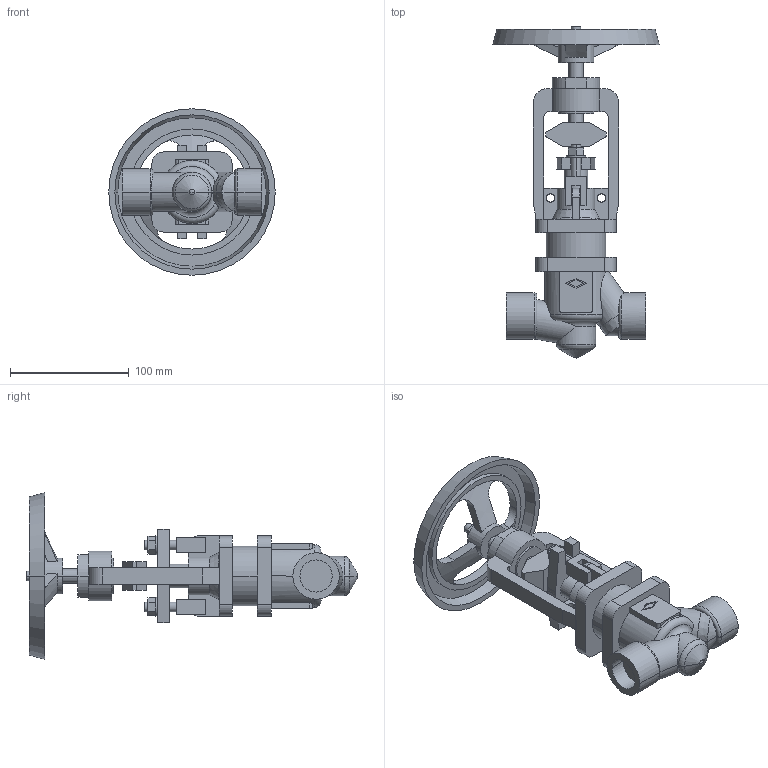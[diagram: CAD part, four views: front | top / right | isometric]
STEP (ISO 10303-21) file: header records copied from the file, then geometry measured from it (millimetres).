
FILE_DESCRIPTION(('OneSpaceDesigner STEP Export'),'2;1');
FILE_NAME('c000004272.stp','2010-05-04T11:19:04',(''),(''),'OneSpace Designer STEP processor for AP214 (Solid Model)','OneSpace Modeling 15.50B 03-Nov-2007 (C) CoCreate Software GmbH','');
FILE_SCHEMA(('AUTOMOTIVE_DESIGN { 1 0 10303 214 1 1 1 1 }'));
Length unit declared in the file: millimetre
Products named in the file (1): 1
Bounding box: 140 x 279.13 x 140 mm (x, y, z)
Volume: 570923.4 mm3; surface area: 118969.5 mm2
Topology: 1 solids, 1 shells, 283 faces, 738 edges, 479 vertices
Faces by surface type: plane 152, cylinder 91, cone 24, torus 14, sphere 2
Entity records: 10965 total; most frequent: CARTESIAN_POINT 2083, ORIENTED_EDGE 1476, DIRECTION 1243, EDGE_CURVE 738, VERTEX_POINT 479, VECTOR 431, LINE 431, AXIS2_PLACEMENT_3D 406
